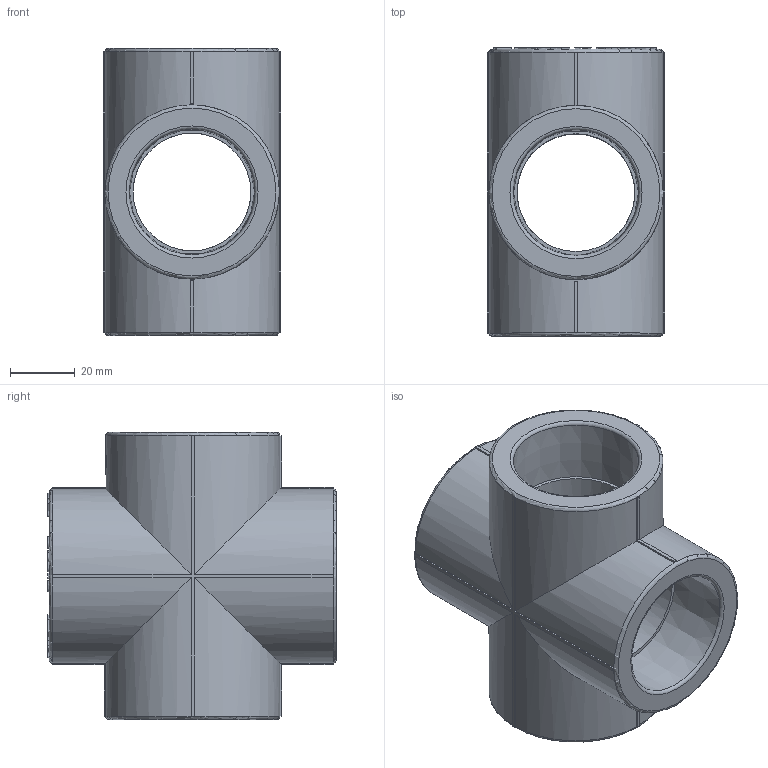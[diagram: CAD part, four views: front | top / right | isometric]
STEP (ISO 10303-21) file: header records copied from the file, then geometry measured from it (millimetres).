
FILE_DESCRIPTION(('STEP AP203'), '1');
FILE_NAME('ÂÐ.752261.007 - VTp.741.0.040', '', ('UNSPECIFIED'), ('UNSPECIFIED'), 'C3D Converter', 'C3D Toolkit', '');
FILE_SCHEMA(('CONFIG_CONTROL_DESIGN'));
Length unit declared in the file: millimetre
Products named in the file (1): ВР.752261.007
Bounding box: 55 x 89.5 x 89 mm (x, y, z)
Volume: 137713.1 mm3; surface area: 39265.8 mm2
Topology: 1 solids, 1 shells, 1075 faces, 3000 edges, 1984 vertices
Faces by surface type: extrusion 605, plane 413, cylinder 45, torus 8, cone 4
Full cylindrical faces by diameter (mm): 8 x1, 36.5 x4
Entity records: 39531 total; most frequent: CARTESIAN_POINT 15192, ORIENTED_EDGE 5966, DIRECTION 3071, EDGE_CURVE 2983, VECTOR 2019, VERTEX_POINT 1984, B_SPLINE_CURVE_WITH_KNOTS 1817, LINE 1414
